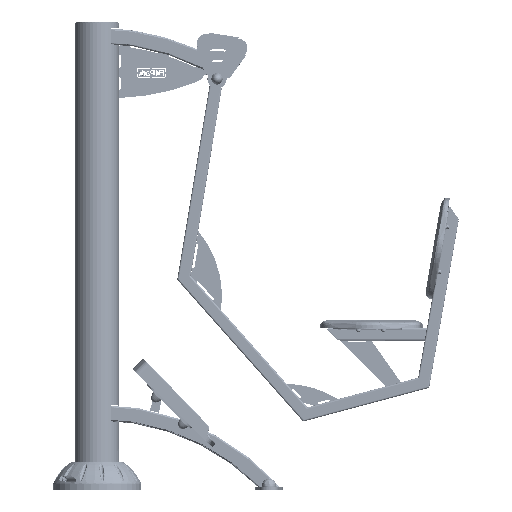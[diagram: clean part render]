
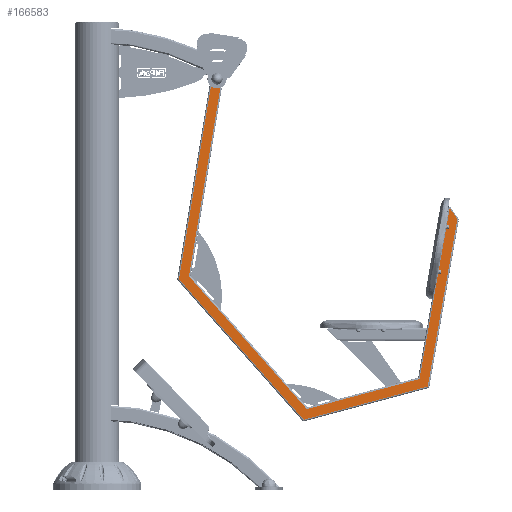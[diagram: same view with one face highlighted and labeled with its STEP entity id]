
A CAD part, top view. The second image highlights one B-rep face of the part: STEP entity #166583.
In plain terms, the highlighted planar face has unit normal (0, 0, 1).
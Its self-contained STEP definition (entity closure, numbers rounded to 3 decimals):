
#791 = LINE ( 'NONE', #70791, #124496 ) ;
#4104 = VERTEX_POINT ( 'NONE', #134307 ) ;
#4214 = CARTESIAN_POINT ( 'NONE',  ( 37.257, 460.768, 40. ) ) ;
#4969 = ORIENTED_EDGE ( 'NONE', *, *, #6619, .F. ) ;
#6619 = EDGE_CURVE ( 'NONE', #4104, #153609, #36012, .T. ) ;
#7024 = VERTEX_POINT ( 'NONE', #84091 ) ;
#7150 = EDGE_CURVE ( 'NONE', #116336, #7024, #11202, .T. ) ;
#7266 = DIRECTION ( 'NONE',  ( -0.966, -0.259, 0. ) ) ;
#7490 = ORIENTED_EDGE ( 'NONE', *, *, #169391, .F. ) ;
#7549 = VECTOR ( 'NONE', #163716, 1000. ) ;
#8166 = LINE ( 'NONE', #160066, #160665 ) ;
#11202 = LINE ( 'NONE', #92140, #22217 ) ;
#14882 = DIRECTION ( 'NONE',  ( 0.174, 0.985, 0. ) ) ;
#18541 = LINE ( 'NONE', #59449, #149892 ) ;
#19625 = CARTESIAN_POINT ( 'NONE',  ( 37.257, 460.768, 40. ) ) ;
#20586 = DIRECTION ( 'NONE',  ( 0.174, 0.985, 0. ) ) ;
#22217 = VECTOR ( 'NONE', #162214, 1000. ) ;
#24049 = AXIS2_PLACEMENT_3D ( 'NONE', #123457, #27005, #167988 ) ;
#27005 = DIRECTION ( 'NONE',  ( 0., 0., 1. ) ) ;
#27939 = ORIENTED_EDGE ( 'NONE', *, *, #52650, .F. ) ;
#32394 = CARTESIAN_POINT ( 'NONE',  ( 106.753, 1064.694, 40. ) ) ;
#34233 = CARTESIAN_POINT ( 'NONE',  ( 752.213, 37.721, 40. ) ) ;
#34735 = PLANE ( 'NONE',  #169884 ) ;
#36012 = LINE ( 'NONE', #34233, #120448 ) ;
#38741 = EDGE_CURVE ( 'NONE', #153609, #63058, #791, .T. ) ;
#42151 = CARTESIAN_POINT ( 'NONE',  ( 781.757, 32.512, 40. ) ) ;
#46705 = DIRECTION ( 'NONE',  ( -0.966, -0.259, 0. ) ) ;
#49467 = LINE ( 'NONE', #147708, #77538 ) ;
#50112 = CIRCLE ( 'NONE', #24049, 30. ) ;
#52650 = EDGE_CURVE ( 'NONE', #157713, #80098, #50112, .T. ) ;
#54526 = CARTESIAN_POINT ( 'NONE',  ( 5.322, 451.538, 40. ) ) ;
#56294 = CARTESIAN_POINT ( 'NONE',  ( 136.35, 1059.798, 40. ) ) ;
#59449 = CARTESIAN_POINT ( 'NONE',  ( 769.404, 135.216, 40. ) ) ;
#59636 = LINE ( 'NONE', #19625, #172952 ) ;
#63058 = VERTEX_POINT ( 'NONE', #75541 ) ;
#63671 = ORIENTED_EDGE ( 'NONE', *, *, #152610, .T. ) ;
#65688 = ORIENTED_EDGE ( 'NONE', *, *, #117759, .T. ) ;
#68158 = ORIENTED_EDGE ( 'NONE', *, *, #81369, .T. ) ;
#69187 = DIRECTION ( 'NONE',  ( -0.664, 0.747, 0. ) ) ;
#70791 = CARTESIAN_POINT ( 'NONE',  ( 861.114, 684.126, 40. ) ) ;
#73208 = CARTESIAN_POINT ( 'NONE',  ( 401.687, 5.628, 40. ) ) ;
#75541 = CARTESIAN_POINT ( 'NONE',  ( 889.505, 643.58, 40. ) ) ;
#76522 = DIRECTION ( 'NONE',  ( -1., 0., 0. ) ) ;
#77538 = VECTOR ( 'NONE', #69187, 1000. ) ;
#80098 = VERTEX_POINT ( 'NONE', #56294 ) ;
#81369 = EDGE_CURVE ( 'NONE', #4104, #150172, #18541, .T. ) ;
#81825 = CARTESIAN_POINT ( 'NONE',  ( 411.808, 39.398, 40. ) ) ;
#83694 = CARTESIAN_POINT ( 'NONE',  ( 865.17, 678.333, 40. ) ) ;
#84091 = CARTESIAN_POINT ( 'NONE',  ( 5.322, 451.538, 40. ) ) ;
#84748 = ORIENTED_EDGE ( 'NONE', *, *, #154560, .F. ) ;
#88717 = DIRECTION ( 'NONE',  ( 0.163, 0.987, 0. ) ) ;
#90192 = CARTESIAN_POINT ( 'NONE',  ( 752.213, 37.721, 40. ) ) ;
#92140 = CARTESIAN_POINT ( 'NONE',  ( 401.687, 5.628, 40. ) ) ;
#95118 = VERTEX_POINT ( 'NONE', #4214 ) ;
#98962 = DIRECTION ( 'NONE',  ( 0.574, -0.819, 0. ) ) ;
#103192 = VERTEX_POINT ( 'NONE', #112875 ) ;
#109664 = ORIENTED_EDGE ( 'NONE', *, *, #122641, .T. ) ;
#112875 = CARTESIAN_POINT ( 'NONE',  ( 795.629, 111.185, 40. ) ) ;
#115747 = FACE_OUTER_BOUND ( 'NONE', #143703, .T. ) ;
#116336 = VERTEX_POINT ( 'NONE', #73208 ) ;
#117759 = EDGE_CURVE ( 'NONE', #95118, #80098, #59636, .T. ) ;
#120448 = VECTOR ( 'NONE', #20586, 1000. ) ;
#122641 = EDGE_CURVE ( 'NONE', #150172, #95118, #49467, .T. ) ;
#123457 = CARTESIAN_POINT ( 'NONE',  ( 125.792, 1087.878, 40. ) ) ;
#124303 = ORIENTED_EDGE ( 'NONE', *, *, #7150, .F. ) ;
#124496 = VECTOR ( 'NONE', #98962, 1000. ) ;
#134304 = VECTOR ( 'NONE', #14882, 1000. ) ;
#134307 = CARTESIAN_POINT ( 'NONE',  ( 769.404, 135.216, 40. ) ) ;
#143703 = EDGE_LOOP ( 'NONE', ( #63671, #159817, #4969, #68158, #109664, #65688, #27939, #7490, #124303, #84748 ) ) ;
#147708 = CARTESIAN_POINT ( 'NONE',  ( 411.808, 39.398, 40. ) ) ;
#149892 = VECTOR ( 'NONE', #46705, 1000. ) ;
#150172 = VERTEX_POINT ( 'NONE', #81825 ) ;
#152610 = EDGE_CURVE ( 'NONE', #103192, #63058, #166807, .T. ) ;
#153609 = VERTEX_POINT ( 'NONE', #83694 ) ;
#154560 = EDGE_CURVE ( 'NONE', #103192, #116336, #8166, .T. ) ;
#157713 = VERTEX_POINT ( 'NONE', #32394 ) ;
#159817 = ORIENTED_EDGE ( 'NONE', *, *, #38741, .F. ) ;
#160066 = CARTESIAN_POINT ( 'NONE',  ( 795.629, 111.185, 40. ) ) ;
#160665 = VECTOR ( 'NONE', #7266, 1000. ) ;
#162214 = DIRECTION ( 'NONE',  ( -0.664, 0.747, 0. ) ) ;
#162826 = LINE ( 'NONE', #54526, #7549 ) ;
#163716 = DIRECTION ( 'NONE',  ( 0.163, 0.987, 0. ) ) ;
#166583 = ADVANCED_FACE ( 'NONE', ( #115747 ), #34735, .F. ) ;
#166807 = LINE ( 'NONE', #42151, #134304 ) ;
#167988 = DIRECTION ( 'NONE',  ( 1., 0., 0. ) ) ;
#169391 = EDGE_CURVE ( 'NONE', #7024, #157713, #162826, .T. ) ;
#169884 = AXIS2_PLACEMENT_3D ( 'NONE', #90192, #172155, #76522 ) ;
#172155 = DIRECTION ( 'NONE',  ( 0., 0., -1. ) ) ;
#172952 = VECTOR ( 'NONE', #88717, 1000. ) ;
